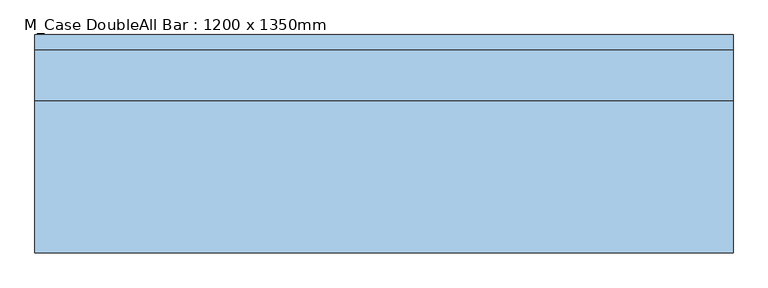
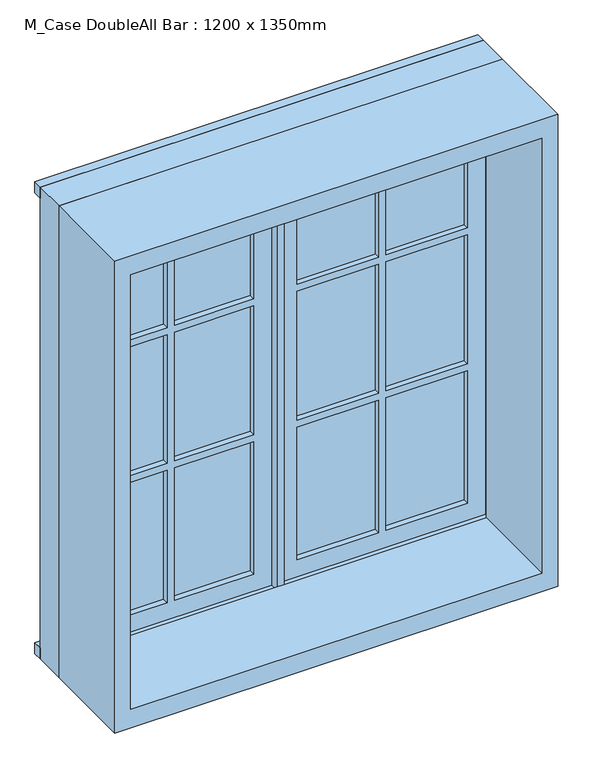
"""IFC4 building model written with IfcOpenShell, lengths in millimetres: window geometry, M_Case DoubleAll Bar : 1200 x 1350mm."""

from ifc_helpers import new_model, si_unit, frame, origin, place, context, project, spatial, polyline, outline, extrude, source, transform, mapped, element, save


def m_case_doubleall_bar_1200_x_1350mm_d246b42b(model_context):
    return source(origin(), model_context, "Body", "SweptSolid", [
        extrude(outline(polyline([(958.0, -569.25), (958.0, -10.0), (2222.0, -10.0), (2222.0, -569.25), (958.0, -569.25)]), holes=[polyline([(1007.0, -273.5), (1385.6666667, -273.5), (1385.6666667, -59.0), (1007.0, -59.0), (1007.0, -273.5)]), polyline([(1794.3333333, -59.0), (1794.3333333, -273.5), (2175.25, -273.5), (2175.25, -59.0), (1794.3333333, -59.0)]), polyline([(2175.25, -293.5), (1794.3333333, -293.5), (1794.3333333, -520.25), (2175.25, -520.25), (2175.25, -293.5)]), polyline([(1385.6666667, -520.25), (1385.6666667, -293.5), (1007.0, -293.5), (1007.0, -520.25), (1385.6666667, -520.25)]), polyline([(1774.3333333, -273.5), (1774.3333333, -59.0), (1405.6666667, -59.0), (1405.6666667, -273.5), (1774.3333333, -273.5)]), polyline([(1405.6666667, -293.5), (1405.6666667, -520.25), (1774.3333333, -520.25), (1774.3333333, -293.5), (1405.6666667, -293.5)])]), frame((0.0, 66.522694, 0.0), z_axis=(0.0, 1.0, 0.0), x_axis=(0.0, 0.0, 1.0)), (0.0, 0.0, 1.0), 44.45),
        extrude(outline(polyline([(-520.25, 95.097694), (-59.0, 95.097694), (-59.0, 82.397694), (-520.25, 82.397694), (-520.25, 95.097694)])), frame((0.0, 0.0, 1007.0), z_axis=(0.0, 0.0, 1.0), x_axis=(1.0, 0.0, 0.0)), (0.0, 0.0, 1.0), 1168.25),
        extrude(outline(polyline([(-600.0, 155.422694), (600.0, 155.422694), (600.0, 129.972694), (-600.0, 129.972694), (-600.0, 155.422694)])), frame((0.0, 0.0, 2233.55), z_axis=(0.0, 0.0, 1.0), x_axis=(1.0, 0.0, 0.0)), (0.0, 0.0, 1.0), 31.45),
        extrude(outline(polyline([(-600.0, 155.422694), (600.0, 155.422694), (600.0, 129.972694), (-600.0, 129.972694), (-600.0, 155.422694)])), frame((0.0, 0.0, 915.0), z_axis=(0.0, 0.0, 1.0), x_axis=(1.0, 0.0, 0.0)), (0.0, 0.0, 1.0), 31.45),
        extrude(outline(polyline([(520.25, 82.397694), (59.0, 82.397694), (59.0, 95.097694), (520.25, 95.097694), (520.25, 82.397694)])), frame((0.0, 0.0, 1007.0), z_axis=(0.0, 0.0, 1.0), x_axis=(1.0, 0.0, 0.0)), (0.0, 0.0, 1.0), 1166.0),
        extrude(outline(polyline([(2222.0, 10.0), (958.0, 10.0), (958.0, 569.25), (2222.0, 569.25), (2222.0, 10.0)]), holes=[polyline([(2173.0, 299.625), (2173.0, 520.25), (1794.3333333, 520.25), (1794.3333333, 299.625), (2173.0, 299.625)]), polyline([(1007.0, 299.625), (1385.6666667, 299.625), (1385.6666667, 520.25), (1007.0, 520.25), (1007.0, 299.625)]), polyline([(1794.3333333, 59.0), (2173.0, 59.0), (2173.0, 279.625), (1794.3333333, 279.625), (1794.3333333, 59.0)]), polyline([(1774.3333333, 279.625), (1405.6666667, 279.625), (1405.6666667, 59.0), (1774.3333333, 59.0), (1774.3333333, 279.625)]), polyline([(1007.0, 59.0), (1385.6666667, 59.0), (1385.6666667, 279.625), (1007.0, 279.625), (1007.0, 59.0)]), polyline([(1405.6666667, 520.25), (1405.6666667, 299.625), (1774.3333333, 299.625), (1774.3333333, 520.25), (1405.6666667, 520.25)])]), frame((0.0, 66.522694, 0.0), z_axis=(0.0, 1.0, 0.0), x_axis=(0.0, 0.0, 1.0)), (0.0, 0.0, 1.0), 44.45),
        extrude(outline(polyline([(2265.0, -600.0), (915.0, -600.0), (915.0, 600.0), (2265.0, 600.0), (2265.0, -600.0)]), holes=[polyline([(2212.0, -557.0), (2212.0, 557.0), (968.0, 557.0), (968.0, -557.0), (2212.0, -557.0)])]), frame((0.0, -220.027306, 0.0), z_axis=(0.0, 1.0, 0.0), x_axis=(0.0, 0.0, 1.0)), (0.0, 0.0, 1.0), 261.5),
        extrude(outline(polyline([(2265.0, 600.0), (2265.0, -600.0), (915.0, -600.0), (915.0, 600.0), (2265.0, 600.0)]), holes=[polyline([(958.0, -10.0), (958.0, -569.25), (2222.0, -569.25), (2222.0, -10.0), (958.0, -10.0)]), polyline([(958.0, 569.25), (958.0, 10.0), (2222.0, 10.0), (2222.0, 569.25), (958.0, 569.25)])]), frame((0.0, 41.472694, 0.0), z_axis=(0.0, 1.0, 0.0), x_axis=(0.0, 0.0, 1.0)), (0.0, 0.0, 1.0), 88.5),
    ])


if __name__ == "__main__":
    model = new_model("IFC4")
    model_context = context("Model", 3, world=origin())
    ifc_project = project(units=[si_unit("LENGTHUNIT", "METRE", prefix="MILLI")], contexts=[model_context])
    site = spatial("IfcSite", under=ifc_project)
    building = spatial("IfcBuilding", under=site)
    placement = place(None, origin())
    m_case_doubleall_bar_1200_x_1350mm_shape = m_case_doubleall_bar_1200_x_1350mm_d246b42b(model_context)
    element("IfcWindow", 1, ObjectType="M_Case DoubleAll Bar : 1200 x 1350mm", at=placement, inside=building, context=model_context, shape_type="MappedRepresentation", body=[
        mapped(m_case_doubleall_bar_1200_x_1350mm_shape, transform((0.0, 0.0, 0.0), x_axis=(1.0, 0.0, 0.0), y_axis=(0.0, 1.0, 0.0), z_axis=(0.0, 0.0, 1.0))),
    ])
    save(model, "model.ifc")
